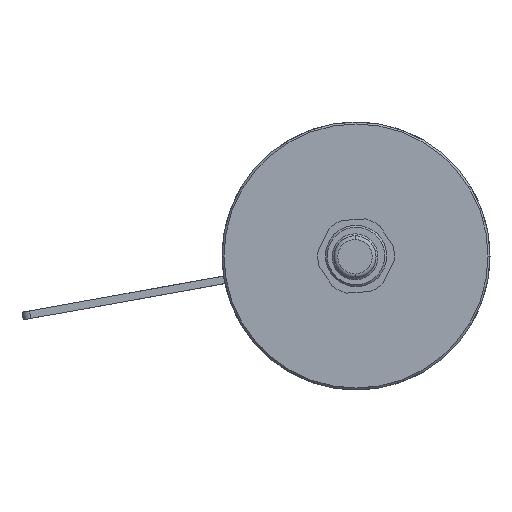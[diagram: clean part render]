
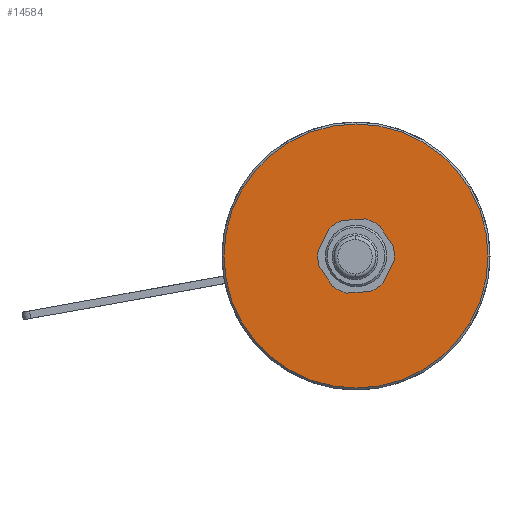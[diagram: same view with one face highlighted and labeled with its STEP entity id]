
A CAD part, left-side view. The second image highlights one B-rep face of the part: STEP entity #14584.
In plain terms, the highlighted planar face has unit normal (-1, 0, 0).
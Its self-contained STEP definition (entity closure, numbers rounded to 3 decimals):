
#401 = DIRECTION ( 'NONE',  ( -1., 0., 0. ) ) ;
#468 = DIRECTION ( 'NONE',  ( -1., 0., 0. ) ) ;
#702 = EDGE_CURVE ( 'NONE', #7892, #3755, #6714, .T. ) ;
#1402 = CIRCLE ( 'NONE', #11204, 6.05 ) ;
#2132 = VERTEX_POINT ( 'NONE', #10674 ) ;
#2443 = CARTESIAN_POINT ( 'NONE',  ( -105., 0., 0. ) ) ;
#2722 = EDGE_LOOP ( 'NONE', ( #15304, #15096 ) ) ;
#2769 = CARTESIAN_POINT ( 'NONE',  ( -105., 35., 0. ) ) ;
#2973 = AXIS2_PLACEMENT_3D ( 'NONE', #2769, #8122, #13491 ) ;
#3378 = EDGE_CURVE ( 'NONE', #12283, #2132, #16567, .T. ) ;
#3755 = VERTEX_POINT ( 'NONE', #9542 ) ;
#3929 = CARTESIAN_POINT ( 'NONE',  ( -105., 0., 0. ) ) ;
#4092 = FACE_OUTER_BOUND ( 'NONE', #2722, .T. ) ;
#4493 = AXIS2_PLACEMENT_3D ( 'NONE', #12423, #401, #5756 ) ;
#4664 = CIRCLE ( 'NONE', #14479, 34.5 ) ;
#5336 = CARTESIAN_POINT ( 'NONE',  ( -105., 0., -34.5 ) ) ;
#5756 = DIRECTION ( 'NONE',  ( 0., 0., 1. ) ) ;
#5826 = DIRECTION ( 'NONE',  ( 0., 0., 1. ) ) ;
#6272 = EDGE_LOOP ( 'NONE', ( #8956, #16341 ) ) ;
#6714 = CIRCLE ( 'NONE', #4493, 34.5 ) ;
#7792 = DIRECTION ( 'NONE',  ( -1., 0., 0. ) ) ;
#7892 = VERTEX_POINT ( 'NONE', #5336 ) ;
#8122 = DIRECTION ( 'NONE',  ( -1., 0., 0. ) ) ;
#8956 = ORIENTED_EDGE ( 'NONE', *, *, #3378, .F. ) ;
#8990 = AXIS2_PLACEMENT_3D ( 'NONE', #12489, #468, #5826 ) ;
#9230 = EDGE_CURVE ( 'NONE', #2132, #12283, #1402, .T. ) ;
#9264 = DIRECTION ( 'NONE',  ( -1., 0., 0. ) ) ;
#9429 = FACE_BOUND ( 'NONE', #6272, .T. ) ;
#9542 = CARTESIAN_POINT ( 'NONE',  ( -105., 0., 34.5 ) ) ;
#10674 = CARTESIAN_POINT ( 'NONE',  ( -105., 0., -6.05 ) ) ;
#11204 = AXIS2_PLACEMENT_3D ( 'NONE', #2443, #7792, #13148 ) ;
#12283 = VERTEX_POINT ( 'NONE', #12611 ) ;
#12423 = CARTESIAN_POINT ( 'NONE',  ( -105., 0., 0. ) ) ;
#12489 = CARTESIAN_POINT ( 'NONE',  ( -105., 0., 0. ) ) ;
#12611 = CARTESIAN_POINT ( 'NONE',  ( -105., 0., 6.05 ) ) ;
#13148 = DIRECTION ( 'NONE',  ( 0., 0., 1. ) ) ;
#13491 = DIRECTION ( 'NONE',  ( 0., 0., 1. ) ) ;
#14479 = AXIS2_PLACEMENT_3D ( 'NONE', #3929, #9264, #14643 ) ;
#14584 = ADVANCED_FACE ( 'NONE', ( #4092, #9429 ), #14801, .T. ) ;
#14643 = DIRECTION ( 'NONE',  ( 0., 0., 1. ) ) ;
#14801 = PLANE ( 'NONE',  #2973 ) ;
#15096 = ORIENTED_EDGE ( 'NONE', *, *, #17073, .T. ) ;
#15304 = ORIENTED_EDGE ( 'NONE', *, *, #702, .T. ) ;
#16341 = ORIENTED_EDGE ( 'NONE', *, *, #9230, .F. ) ;
#16567 = CIRCLE ( 'NONE', #8990, 6.05 ) ;
#17073 = EDGE_CURVE ( 'NONE', #3755, #7892, #4664, .T. ) ;
